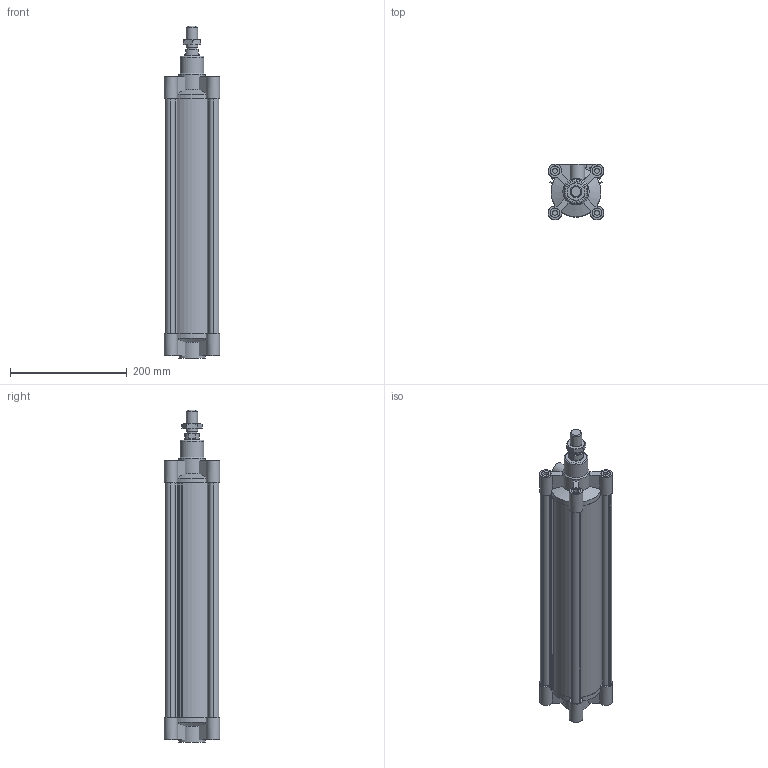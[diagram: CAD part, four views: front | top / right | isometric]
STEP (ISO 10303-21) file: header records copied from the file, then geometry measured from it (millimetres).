
FILE_DESCRIPTION((''),'2;1');
FILE_NAME('I:\Area Tecnica\Disegni\VARIE-3D\Componenti\ECOLIGHT\139#.##_0000_01\stp\139#_80_0350_01.iam.stp','2012-01-28T08:03:16',(''),(''),'Autodesk Inventor 2012','Autodesk Inventor 2012','');
FILE_SCHEMA(('AUTOMOTIVE_DESIGN { 1 0 10303 214 1 1 1 1 }'));
Length unit declared in the file: millimetre
Products named in the file (6): 139#_80_0350_01; CPL080_004-350; CPL080-001-01; CPL080-002-01; CPL_80_0350; 1320_80_18F
Assembly tree (5 placements, depth 2):
  139#_80_0350_01
    CPL080_004-350
    CPL080-001-01
    CPL080-002-01
    CPL_80_0350
    1320_80_18F
Bounding box: 95 x 95 x 568.5 mm (x, y, z)
Volume: 1488269.6 mm3; surface area: 501376.4 mm2
Topology: 5 solids, 5 shells, 264 faces, 648 edges, 426 vertices
Faces by surface type: plane 154, cylinder 83, cone 26, torus 1
Full cylindrical faces by diameter (mm): 8.5 x8, 12 x2, 15.2 x2, 16 x8, 16.5 x8, 18 x1, 18.5 x1, 20 x1, 24.5 x1, 25 x2, 41 x1, 45 x2, 80 x4
Entity records: 7874 total; most frequent: CARTESIAN_POINT 1483, DIRECTION 1288, ORIENTED_EDGE 1186, EDGE_CURVE 593, AXIS2_PLACEMENT_3D 476, VERTEX_POINT 419, EDGE_LOOP 358, VECTOR 336
